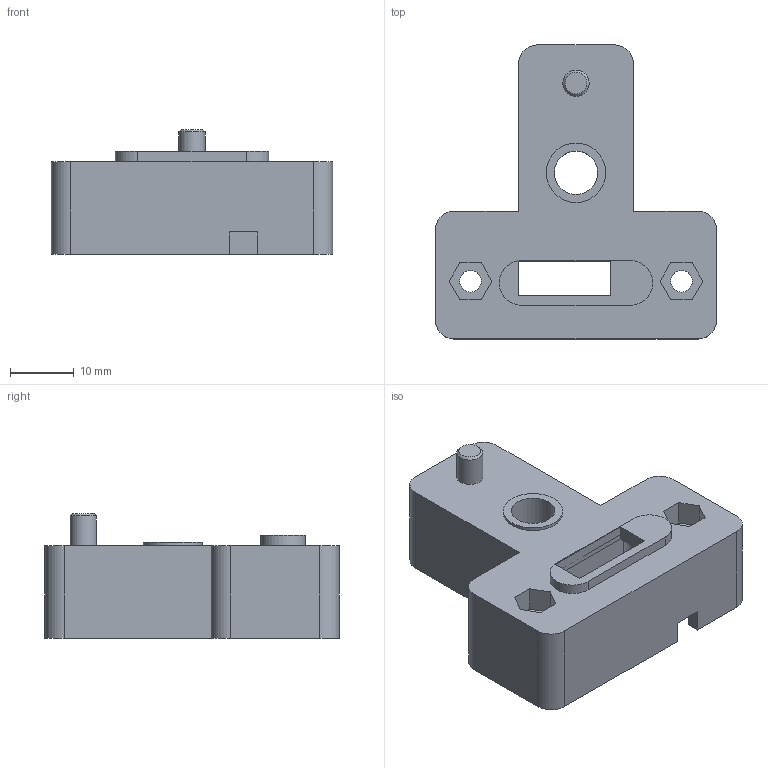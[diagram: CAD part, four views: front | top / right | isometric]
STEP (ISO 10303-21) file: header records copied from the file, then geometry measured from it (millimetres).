
FILE_DESCRIPTION(('Open CASCADE Model'),'2;1');
FILE_NAME('Open CASCADE Shape Model','2026-10-30T11:34:49',('Author'),( 'Open CASCADE'),'Open CASCADE STEP processor 7.9','Open CASCADE 7.9' ,'Unknown');
FILE_SCHEMA(('AUTOMOTIVE_DESIGN { 1 0 10303 214 1 1 1 1 }'));
Length unit declared in the file: millimetre
Products named in the file (1): Open CASCADE STEP translator 7.9 1
Bounding box: 44 x 46 x 19.5 mm (x, y, z)
Volume: 13271.8 mm3; surface area: 6990.7 mm2
Topology: 1 solids, 1 shells, 66 faces, 170 edges, 113 vertices
Faces by surface type: plane 47, cylinder 18, cone 1
Full cylindrical faces by diameter (mm): 3.4 x2, 4.1 x1, 6.8 x1, 9.3 x1, 11.8 x1
Entity records: 4210 total; most frequent: CARTESIAN_POINT 872, DIRECTION 584, LINE 357, VECTOR 357, ORIENTED_EDGE 340, PCURVE 340, DEFINITIONAL_REPRESENTATION 340, EDGE_CURVE 170
